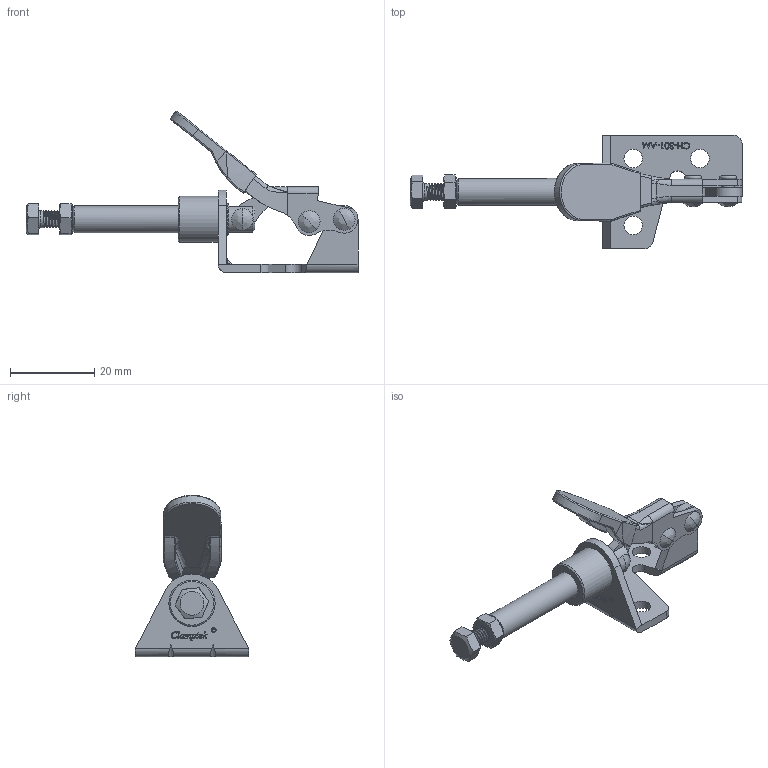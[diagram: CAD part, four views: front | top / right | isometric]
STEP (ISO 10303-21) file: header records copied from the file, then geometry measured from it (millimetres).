
FILE_DESCRIPTION(/* description */ ('STEP AP203'),/* implementation_level */ '2;1');
FILE_NAME(/* name */ 'D:\Vault_2016\Projekty\STRONA\Push-pull clamp\CH-301-AM\CH-301-AM_ZAMKNIETY.stp',/* time_stamp */ '2019-01-10T11:42:37+01:00',/* author */ ('user'),/* organization */ ('Î¢ÈíÖÐ¹ú'),/* preprocessor_version */ 'ST-DEVELOPER v17.2',/* originating_system */ 'Autodesk Inventor 2019',/* authorisation */ '');
FILE_SCHEMA (('AUTOMOTIVE_DESIGN { 1 0 10303 214 3 1 1 }'));
Products named in the file (12): CH-301-AM_ZAMKNIETY; CH-SA-042007 SPINDLE SUPPLIED; CH-301-AM-02 CREST STALK; CH-301-AM-05 LEAD SET; CH-301-AM-03 HANDLE; CH-301-03-01; CH-301-03-02; CH-301-07; M4 Nut; CH-301-AM-04 CONNECTING-PLATE; CH-301-AM-01 BASE; CH-301-06
Assembly tree (12 placements, depth 3):
  CH-301-AM_ZAMKNIETY
    CH-SA-042007 SPINDLE SUPPLIED
    CH-301-AM-02 CREST STALK
    CH-301-AM-05 LEAD SET
    CH-301-06  x2
    CH-301-AM-03 HANDLE
      CH-301-03-01
      CH-301-03-02
    CH-301-07
    M4 Nut
    CH-301-AM-04 CONNECTING-PLATE
    CH-301-AM-01 BASE
Bounding box: 79.02 x 27 x 38.41 mm (x, y, z)
Volume: 5660.2 mm3; surface area: 9073.3 mm2
Topology: 11 solids, 11 shells, 650 faces, 1800 edges, 1193 vertices
Faces by surface type: plane 260, bspline 210, cylinder 152, cone 16, torus 12
Full cylindrical faces by diameter (mm): 1.033 x1, 1.17 x1, 2.4 x1, 3 x12, 3.2 x23, 4 x26, 4.4 x3, 6.4 x2, 7.7 x2, 11 x1
Entity records: 48206 total; most frequent: CARTESIAN_POINT 32868, ORIENTED_EDGE 3540, DIRECTION 2379, EDGE_CURVE 1770, VERTEX_POINT 1181, LINE 887, VECTOR 887, AXIS2_PLACEMENT_3D 746
